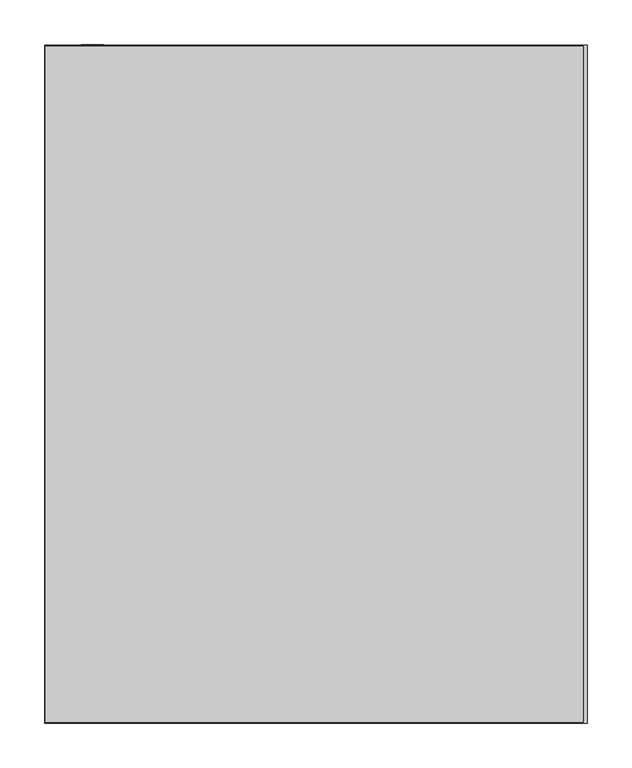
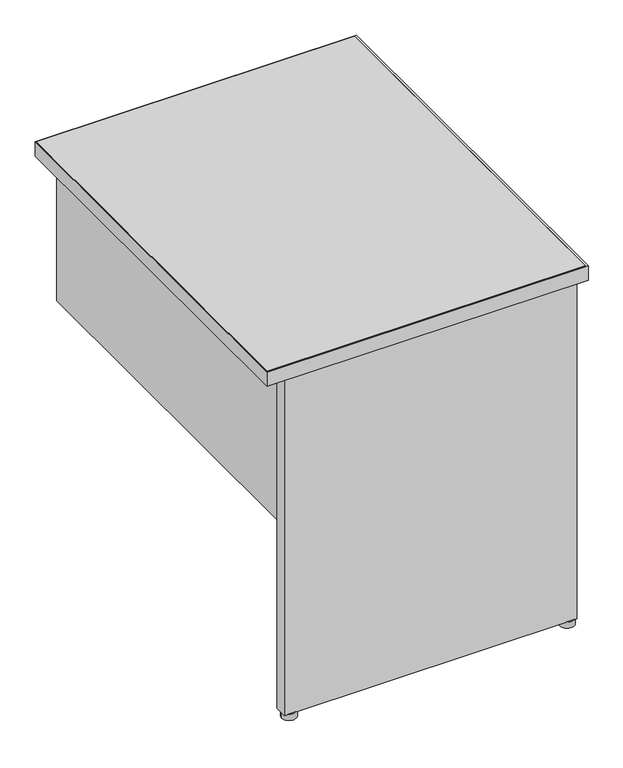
"""IFC4 building model written with IfcOpenShell, lengths in millimetres: furniture geometry, Steelcase - Kick Freestanding - Desk - Return - Partial Height Modesty Panel : 24D x 30W - Left."""

from ifc_helpers import new_model, si_unit, point, frame, frame_2d, origin, origin_with_axes, place, context, project, spatial, polyline, circle_curve, trimmed, segment, composite_curve, outline, extrude, source, transform, mapped, element, save


def furniture_bda33997(model_context):
    return source(origin(), model_context, "Body", "SweptSolid", [
        extrude(outline(composite_curve([segment(trimmed(circle_curve(frame_2d((2220.2474425, -1283.4145152)), 13.97), [point((2206.2774425, -1283.4145152))], [point((2234.2174425, -1283.4145152))], False, "CARTESIAN"), True, "CONTINUOUS"), segment(trimmed(circle_curve(frame_2d((2220.2474425, -1283.4145152)), 13.97), [point((2234.2174425, -1283.4145152))], [point((2206.2774425, -1283.4145152))], False, "CARTESIAN"), True, "CONTINUOUS")], self_intersect=False)), origin_with_axes(), (0.0, 0.0, 1.0), 12.7),
        extrude(outline(composite_curve([segment(trimmed(circle_curve(frame_2d((2748.0594425, -1283.4145152)), 13.97), [point((2734.0894425, -1283.4145152))], [point((2762.0294425, -1283.4145152))], False, "CARTESIAN"), True, "CONTINUOUS"), segment(trimmed(circle_curve(frame_2d((2748.0594425, -1283.4145152)), 13.97), [point((2762.0294425, -1283.4145152))], [point((2734.0894425, -1283.4145152))], False, "CARTESIAN"), True, "CONTINUOUS")], self_intersect=False)), origin_with_axes(), (0.0, 0.0, 1.0), 12.7),
        extrude(outline(polyline([(2205.0074425, -1270.8669152), (2328.2736437, -1270.8669152), (2328.2736437, -1293.2951136), (2427.9940467, -1293.2951136), (2427.9940467, -1270.8669041), (2536.7314502, -1270.8669041), (2536.7314502, -1293.2951136), (2636.4518532, -1293.2951136), (2636.4518532, -1270.8669041), (2759.4894376, -1270.8669041), (2759.4894376, -1295.3525098), (2205.0074425, -1295.3525098), (2205.0074425, -1270.8669152)])), frame((0.0, 0.0, 12.7), z_axis=(0.0, 0.0, 1.0), x_axis=(1.0, 0.0, 0.0)), (0.0, 0.0, 1.0), 682.244),
        extrude(outline(polyline([(2230.4074426, -546.0525152), (2230.4074426, -1270.8669152), (2205.0074425, -1270.8669152), (2205.0074425, -546.0525152), (2230.4074426, -546.0525152)])), frame((0.0, 0.0, 390.144), z_axis=(0.0, 0.0, 1.0), x_axis=(1.0, 0.0, 0.0)), (0.0, 0.0, 1.0), 304.8),
        extrude(outline(polyline([(2769.2176592, -548.0845152), (2769.2176592, -1307.5445152), (2164.8500425, -1307.5445152), (2164.8500425, -548.0845152), (2769.2176592, -548.0845152)])), frame((0.0, 0.0, 694.944), z_axis=(0.0, 0.0, 1.0), x_axis=(1.0, 0.0, 0.0)), (0.0, 0.0, 1.0), 28.956),
        extrude(outline(polyline([(2773.4594425, -546.8145152), (2773.4594425, -1308.8145152), (2163.8594425, -1308.8145152), (2163.8594425, -546.8145152), (2773.4594425, -546.8145152)]), holes=[polyline([(2769.2176592, -548.0845152), (2164.8500425, -548.0845152), (2164.8500425, -1307.5445152), (2769.2176592, -1307.5445152), (2769.2176592, -548.0845152)])]), frame((0.0, 0.0, 694.944), z_axis=(0.0, 0.0, 1.0), x_axis=(1.0, 0.0, 0.0)), (0.0, 0.0, 1.0), 28.956),
    ])


if __name__ == "__main__":
    model = new_model("IFC4")
    model_context = context("Model", 3, world=origin())
    ifc_project = project(units=[si_unit("LENGTHUNIT", "METRE", prefix="MILLI")], contexts=[model_context])
    site = spatial("IfcSite", under=ifc_project)
    building = spatial("IfcBuilding", under=site)
    placement = place(None, origin())
    furniture_shape = furniture_bda33997(model_context)
    element("IfcFurniture", 1, ObjectType="Steelcase - Kick Freestanding - Desk - Return - Partial Height Modesty Panel : 24D x 30W - Left", at=placement, inside=building, context=model_context, shape_type="MappedRepresentation", body=[
        mapped(furniture_shape, transform((0.0, 0.0, 0.0), x_axis=(1.0, 0.0, 0.0), y_axis=(0.0, 1.0, 0.0), z_axis=(0.0, 0.0, 1.0))),
    ])
    save(model, "model.ifc")
